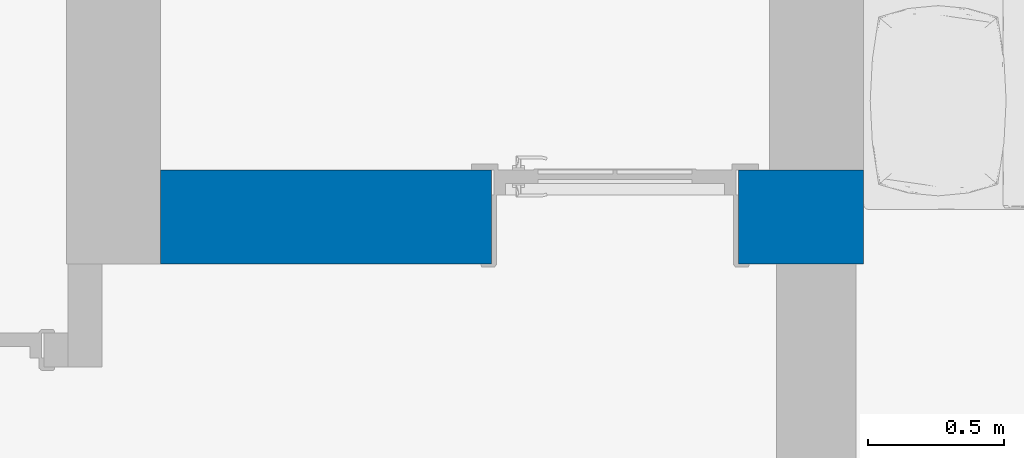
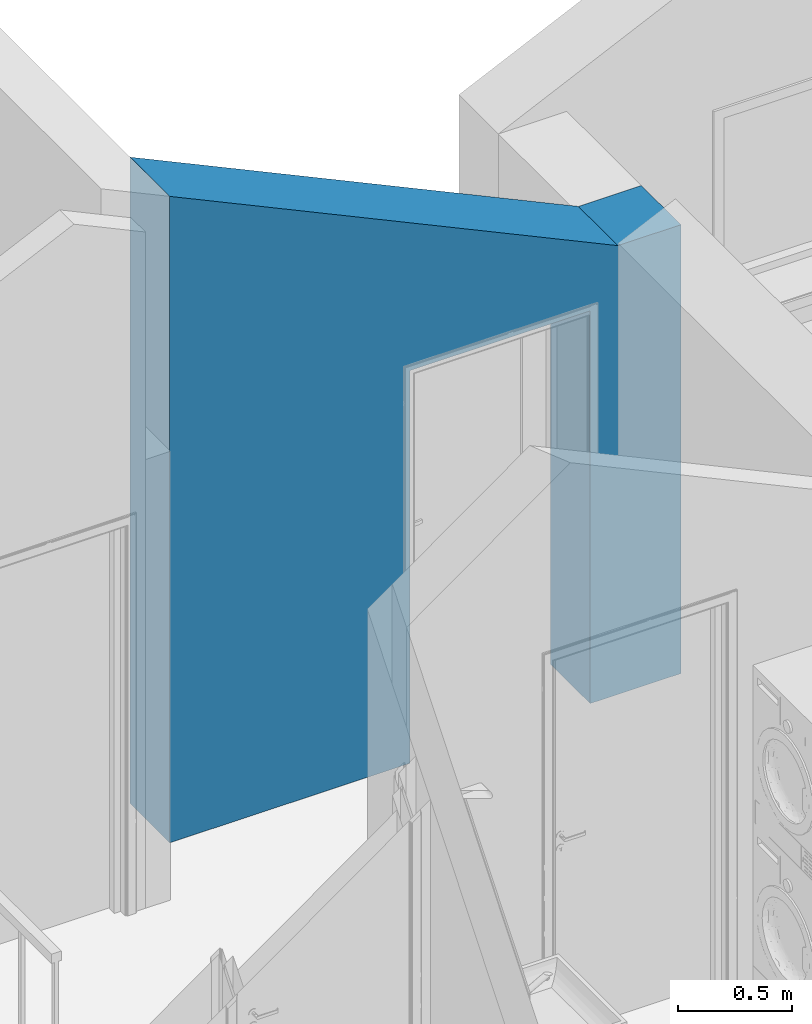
# One storey, part 17 of 44: 1 wall, 1 opening.
"""IFC2X3 building model written with IfcOpenShell, lengths in millimetres."""

from ifc_helpers import new_model, entity, si_unit, converted_unit, direction, frame, frame_2d, origin, place, context, subcontext, project, spatial, polyline, rectangle, extrude, clip, bounded_halfspace, material, layer, layer_set, layer_usage, type_object, element, save


model = new_model("IFC2X3")

# Units and contexts
model_context = context("Model", 3, precision=0.01, world=origin(), true_north=direction((0.0, 1.0)))
body_context = subcontext(model_context, "Body", "Model", "MODEL_VIEW")
ifc_project = project(units=[si_unit("LENGTHUNIT", "METRE", prefix="MILLI"), si_unit("AREAUNIT", "SQUARE_METRE"), si_unit("VOLUMEUNIT", "CUBIC_METRE"), converted_unit("PLANEANGLEUNIT", "DEGREE", entity("IfcPlaneAngleMeasure", 0.017453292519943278), si_unit("PLANEANGLEUNIT", "RADIAN"), dimensions=[0, 0, 0, 0, 0, 0, 0])], contexts=[model_context])

# Site, building, storey
site_placement = place(None, origin())
site = spatial("IfcSite", under=ifc_project, at=site_placement, Name="Default", CompositionType="ELEMENT")
building_placement = place(site_placement, origin())
building = spatial("IfcBuilding", under=site, at=building_placement, CompositionType="ELEMENT")
storey_placement = place(building_placement, frame((0.0, 0.0, 2681.0)))
storey = spatial("IfcBuildingStorey", under=building, at=storey_placement, Name="Et. 2", CompositionType="ELEMENT", Elevation=2681.0)

# Wall, opening
ifc_material_1 = material(Name="Vegg - Stående Kledning_smal - HVIT")
ifc_layer_1 = layer(ifc_material_1, 19.0)
ifc_material_2 = material(Name="Vegg - Utlekting")
ifc_layer_2 = layer(ifc_material_2, 36.0)
ifc_layer_3 = layer(ifc_material_2, 23.0)
ifc_material_3 = material(Name="Vegg - Gips - GU")
ifc_layer_4 = layer(ifc_material_3, 9.0)
ifc_material_4 = material(Name="Vegg - Stender - Isolert")
ifc_layer_5 = layer(ifc_material_4, 198.0)
ifc_material_5 = material(Name="Vegg - Påforing - Isolert")
ifc_layer_6 = layer(ifc_material_5, 48.0)
ifc_material_6 = material(Name="Vegg - Gips - Hvit")
ifc_layer_7 = layer(ifc_material_6, 13.000000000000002)
ifc_layer_set = layer_set([ifc_layer_1, ifc_layer_2, ifc_layer_3, ifc_layer_4, ifc_layer_5, ifc_layer_6, ifc_layer_7], Name="Basic Wall:23-Kv(sm)TIG-19_36_23_9_198_48_13")
ifc_layer_usage = layer_usage(ifc_layer_set, "AXIS2", "NEGATIVE", 173.0)
wall_type = type_object("IfcWallType", Name="Basic Wall:23-Kv(sm)TIG-19_36_23_9_198_48_13", PredefinedType="STANDARD", material=ifc_layer_set)
wall_placement = place(storey_placement, frame((13765.00958675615, 16909.180957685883, 0.0)))
wall = element("IfcWallStandardCase", 1, at=wall_placement, inside=storey, type_object=wall_type, material=ifc_layer_usage, Name="Basic Wall:23-Kv(sm)TIG-19_36_23_9_198_48_13", context=body_context, shape_type="Clipping", body=[
    clip(clip(extrude(rectangle(XDim=2586.000000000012, YDim=345.9999999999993, at=frame_2d((1293.000000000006, 1.2789769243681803e-13), x_axis=(-1.0, 0.0))), origin(), (0.0, 0.0, 1.0), 3457.119461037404), bounded_halfspace(frame((0.0, -173.0, 3457.119461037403), z_axis=(0.42261826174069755, 0.0, 0.9063077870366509), x_axis=(0.0, 1.0, 0.0)), False, frame((0.0, -173.0, 3457.119461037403)), polyline([(0.0, 0.0), (2267.0, 0.0), (2267.0, 346.0), (0.0, 346.0), (0.0, 0.0)]))), bounded_halfspace(frame((2267.0, -173.0, 2400.0), z_axis=(0.0, 0.0, 1.0), x_axis=(0.0, 1.0, 0.0)), False, frame((2267.0, -173.0, 2400.0)), polyline([(0.0, 0.0), (319.0, 0.0), (319.0, 346.0), (0.0, 346.0), (0.0, 0.0)]))),
])
opening_placement = place(wall_placement, frame((1217.0, -173.0, 0.0)))
element("IfcOpeningElement", 2, at=opening_placement, cuts=wall, Name="YD Dynamiske sprosser omramming:9x21M:1", ObjectType="Opening", context=body_context, shape_type="SweptSolid", body=[
    extrude(rectangle(XDim=910.0000000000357, YDim=2100.000000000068, at=frame_2d((1050.000000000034, 455.00000000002), x_axis=(0.0, 1.0))), frame((0.0, 0.0, 0.0), z_axis=(0.0, 1.0, 0.0), x_axis=(0.0, 0.0, 1.0)), (0.0, 0.0, 1.0), 346.0),
])

save(model, "model.ifc")
